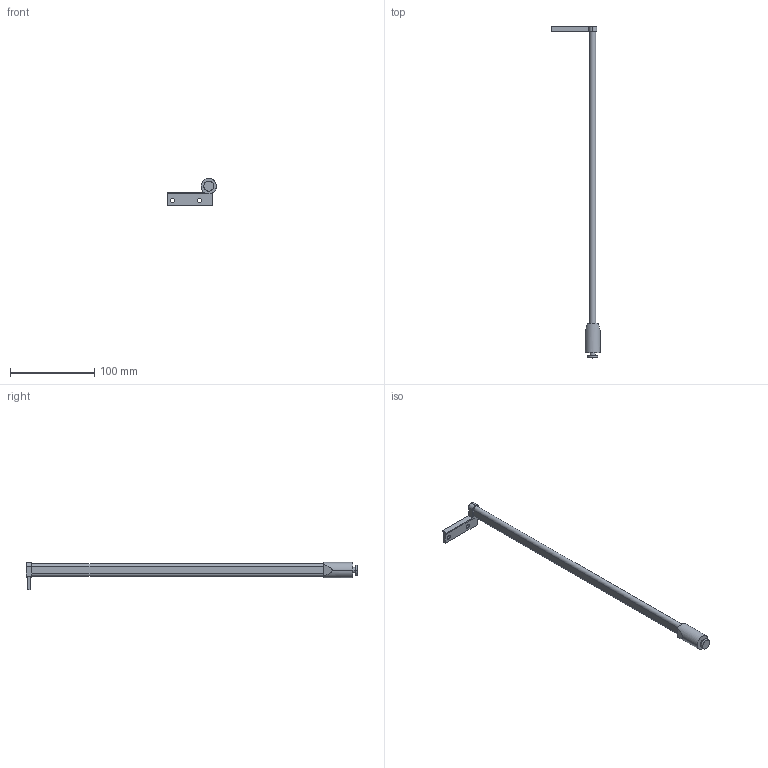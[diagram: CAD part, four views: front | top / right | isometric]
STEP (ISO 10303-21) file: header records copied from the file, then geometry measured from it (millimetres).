
FILE_DESCRIPTION (( 'STEP AP214' ), '1' );
FILE_NAME ('DWD-XP_Reling-Haengeregister_NL400_rechts.step', '2010-10-06T11:19:33', ( 'grass' ), ( '' ), 'SwSTEP 2.0', 'SolidWorks 2010', '' );
FILE_SCHEMA (( 'AUTOMOTIVE_DESIGN' ));
Length unit declared in the file: millimetre
Products named in the file (1): DWD-XP_Reling-Haengeregister_NL400_rechts
Bounding box: 58.1 x 394.3 x 32.15 mm (x, y, z)
Volume: 45875 mm3; surface area: 18834.3 mm2
Topology: 1 solids, 1 shells, 34 faces, 84 edges, 56 vertices
Faces by surface type: plane 20, cylinder 14
Entity records: 1058 total; most frequent: CARTESIAN_POINT 187, DIRECTION 178, ORIENTED_EDGE 168, EDGE_CURVE 84, AXIS2_PLACEMENT_3D 63, VERTEX_POINT 56, LINE 52, VECTOR 52
